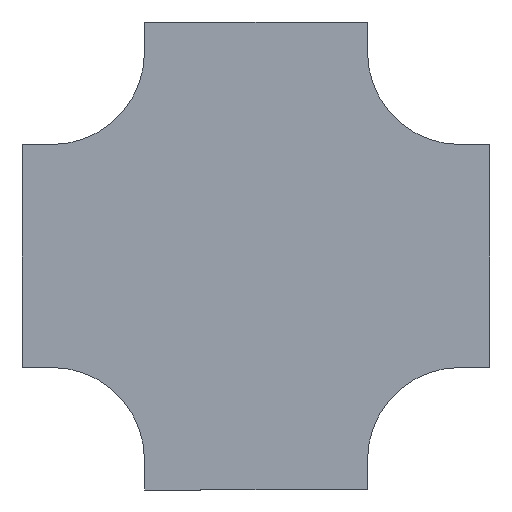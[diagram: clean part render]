
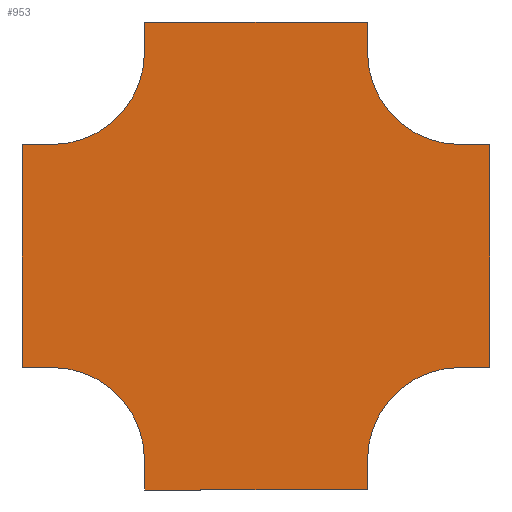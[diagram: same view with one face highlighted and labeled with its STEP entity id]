
A CAD part, front view. The second image highlights one B-rep face of the part: STEP entity #953.
In plain terms, the highlighted planar face has unit normal (0, -1, 0).
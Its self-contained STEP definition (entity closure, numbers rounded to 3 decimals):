
#3 = EDGE_CURVE ( 'NONE', #775, #1076, #1643, .T. ) ;
#24 = ORIENTED_EDGE ( 'NONE', *, *, #1774, .F. ) ;
#31 = ORIENTED_EDGE ( 'NONE', *, *, #2388, .F. ) ;
#43 = ORIENTED_EDGE ( 'NONE', *, *, #1344, .F. ) ;
#53 = LINE ( 'NONE', #3133, #2043 ) ;
#63 = VERTEX_POINT ( 'NONE', #1169 ) ;
#71 = AXIS2_PLACEMENT_3D ( 'NONE', #663, #2652, #2428 ) ;
#82 = CARTESIAN_POINT ( 'NONE',  ( -125., 0., 40. ) ) ;
#101 = EDGE_CURVE ( 'NONE', #2596, #728, #2910, .T. ) ;
#109 = EDGE_CURVE ( 'NONE', #1076, #1753, #2958, .T. ) ;
#113 = CARTESIAN_POINT ( 'NONE',  ( 0., 0., 0. ) ) ;
#146 = CARTESIAN_POINT ( 'NONE',  ( -125., 0., 40. ) ) ;
#169 = LINE ( 'NONE', #186, #2728 ) ;
#171 = AXIS2_PLACEMENT_3D ( 'NONE', #790, #1804, #1739 ) ;
#175 = VECTOR ( 'NONE', #1879, 1000. ) ;
#183 = CARTESIAN_POINT ( 'NONE',  ( -425., 0., -550. ) ) ;
#185 = ORIENTED_EDGE ( 'NONE', *, *, #679, .F. ) ;
#186 = CARTESIAN_POINT ( 'NONE',  ( -425., 0., 40. ) ) ;
#188 = LINE ( 'NONE', #1203, #1565 ) ;
#197 = ORIENTED_EDGE ( 'NONE', *, *, #2530, .F. ) ;
#203 = EDGE_LOOP ( 'NONE', ( #2859, #197, #3058, #851, #2104, #31, #941, #764, #43, #24, #2549, #2358, #2432, #1535, #185, #507 ) ) ;
#212 = CARTESIAN_POINT ( 'NONE',  ( -590., 0., -125. ) ) ;
#218 = CARTESIAN_POINT ( 'NONE',  ( 0., 0., -425. ) ) ;
#269 = VECTOR ( 'NONE', #2176, 1000. ) ;
#306 = DIRECTION ( 'NONE',  ( 0., -1., 0. ) ) ;
#403 = CARTESIAN_POINT ( 'NONE',  ( -590., 0., -425. ) ) ;
#412 = LINE ( 'NONE', #1433, #175 ) ;
#446 = VECTOR ( 'NONE', #626, 1000. ) ;
#507 = ORIENTED_EDGE ( 'NONE', *, *, #864, .F. ) ;
#516 = DIRECTION ( 'NONE',  ( 0., 0., -1. ) ) ;
#522 = CARTESIAN_POINT ( 'NONE',  ( -125., 0., 0. ) ) ;
#530 = VERTEX_POINT ( 'NONE', #1279 ) ;
#577 = DIRECTION ( 'NONE',  ( -1., 0., 0. ) ) ;
#626 = DIRECTION ( 'NONE',  ( 1., 0., 0. ) ) ;
#663 = CARTESIAN_POINT ( 'NONE',  ( 0., 0., -550. ) ) ;
#679 = EDGE_CURVE ( 'NONE', #1853, #2275, #805, .T. ) ;
#681 = CARTESIAN_POINT ( 'NONE',  ( -425., 0., -590. ) ) ;
#726 = DIRECTION ( 'NONE',  ( -1., 0., 0. ) ) ;
#728 = VERTEX_POINT ( 'NONE', #82 ) ;
#764 = ORIENTED_EDGE ( 'NONE', *, *, #3019, .F. ) ;
#775 = VERTEX_POINT ( 'NONE', #1695 ) ;
#790 = CARTESIAN_POINT ( 'NONE',  ( -550., 0., -550. ) ) ;
#805 = CIRCLE ( 'NONE', #1336, 125. ) ;
#851 = ORIENTED_EDGE ( 'NONE', *, *, #3, .F. ) ;
#864 = EDGE_CURVE ( 'NONE', #728, #1853, #2426, .T. ) ;
#918 = DIRECTION ( 'NONE',  ( 0., 0., 1. ) ) ;
#924 = VECTOR ( 'NONE', #1157, 1000. ) ;
#941 = ORIENTED_EDGE ( 'NONE', *, *, #2770, .F. ) ;
#953 = ADVANCED_FACE ( 'NONE', ( #1242 ), #3298, .T. ) ;
#963 = CARTESIAN_POINT ( 'NONE',  ( 0., 0., -125. ) ) ;
#973 = DIRECTION ( 'NONE',  ( 0., 0., -1. ) ) ;
#1018 = LINE ( 'NONE', #963, #2147 ) ;
#1076 = VERTEX_POINT ( 'NONE', #1292 ) ;
#1126 = VERTEX_POINT ( 'NONE', #403 ) ;
#1142 = CARTESIAN_POINT ( 'NONE',  ( -425., 0., 40. ) ) ;
#1157 = DIRECTION ( 'NONE',  ( 1., 0., 0. ) ) ;
#1169 = CARTESIAN_POINT ( 'NONE',  ( 0., 0., -425. ) ) ;
#1203 = CARTESIAN_POINT ( 'NONE',  ( -425., 0., -590. ) ) ;
#1242 = FACE_OUTER_BOUND ( 'NONE', #203, .T. ) ;
#1279 = CARTESIAN_POINT ( 'NONE',  ( -125., 0., -550. ) ) ;
#1292 = CARTESIAN_POINT ( 'NONE',  ( -550., 0., -125. ) ) ;
#1305 = AXIS2_PLACEMENT_3D ( 'NONE', #2975, #2504, #2757 ) ;
#1336 = AXIS2_PLACEMENT_3D ( 'NONE', #113, #306, #2127 ) ;
#1344 = EDGE_CURVE ( 'NONE', #2811, #1686, #188, .T. ) ;
#1404 = VECTOR ( 'NONE', #2517, 1000. ) ;
#1433 = CARTESIAN_POINT ( 'NONE',  ( -125., 0., -590. ) ) ;
#1528 = CARTESIAN_POINT ( 'NONE',  ( 0., 0., 0. ) ) ;
#1535 = ORIENTED_EDGE ( 'NONE', *, *, #1834, .F. ) ;
#1565 = VECTOR ( 'NONE', #726, 1000. ) ;
#1613 = CIRCLE ( 'NONE', #71, 125. ) ;
#1643 = LINE ( 'NONE', #2161, #446 ) ;
#1686 = VERTEX_POINT ( 'NONE', #681 ) ;
#1695 = CARTESIAN_POINT ( 'NONE',  ( -590., 0., -125. ) ) ;
#1739 = DIRECTION ( 'NONE',  ( 0., 0., -1. ) ) ;
#1753 = VERTEX_POINT ( 'NONE', #2906 ) ;
#1774 = EDGE_CURVE ( 'NONE', #530, #2811, #412, .T. ) ;
#1801 = CARTESIAN_POINT ( 'NONE',  ( -550., 0., -425. ) ) ;
#1804 = DIRECTION ( 'NONE',  ( 0., -1., 0. ) ) ;
#1834 = EDGE_CURVE ( 'NONE', #2275, #2142, #1018, .T. ) ;
#1847 = CARTESIAN_POINT ( 'NONE',  ( 40., 0., -425. ) ) ;
#1849 = CARTESIAN_POINT ( 'NONE',  ( 40., 0., -125. ) ) ;
#1853 = VERTEX_POINT ( 'NONE', #522 ) ;
#1865 = EDGE_CURVE ( 'NONE', #2823, #63, #2022, .T. ) ;
#1879 = DIRECTION ( 'NONE',  ( 0., 0., -1. ) ) ;
#1987 = VERTEX_POINT ( 'NONE', #1801 ) ;
#2014 = DIRECTION ( 'NONE',  ( 0., -1., 0. ) ) ;
#2022 = LINE ( 'NONE', #218, #1404 ) ;
#2043 = VECTOR ( 'NONE', #577, 1000. ) ;
#2104 = ORIENTED_EDGE ( 'NONE', *, *, #2219, .F. ) ;
#2127 = DIRECTION ( 'NONE',  ( 0., 0., -1. ) ) ;
#2133 = EDGE_CURVE ( 'NONE', #63, #530, #1613, .T. ) ;
#2142 = VERTEX_POINT ( 'NONE', #2195 ) ;
#2147 = VECTOR ( 'NONE', #3037, 1000. ) ;
#2154 = VECTOR ( 'NONE', #3224, 1000. ) ;
#2161 = CARTESIAN_POINT ( 'NONE',  ( -550., 0., -125. ) ) ;
#2176 = DIRECTION ( 'NONE',  ( 0., 0., -1. ) ) ;
#2195 = CARTESIAN_POINT ( 'NONE',  ( 40., 0., -125. ) ) ;
#2204 = LINE ( 'NONE', #3239, #2154 ) ;
#2213 = DIRECTION ( 'NONE',  ( 0., 0., 1. ) ) ;
#2219 = EDGE_CURVE ( 'NONE', #1126, #775, #2230, .T. ) ;
#2230 = LINE ( 'NONE', #212, #2945 ) ;
#2275 = VERTEX_POINT ( 'NONE', #2998 ) ;
#2358 = ORIENTED_EDGE ( 'NONE', *, *, #1865, .F. ) ;
#2388 = EDGE_CURVE ( 'NONE', #1987, #1126, #53, .T. ) ;
#2405 = VECTOR ( 'NONE', #516, 1000. ) ;
#2408 = CIRCLE ( 'NONE', #171, 125. ) ;
#2422 = EDGE_CURVE ( 'NONE', #2142, #2823, #2612, .T. ) ;
#2426 = LINE ( 'NONE', #146, #269 ) ;
#2428 = DIRECTION ( 'NONE',  ( 0., 0., 1. ) ) ;
#2432 = ORIENTED_EDGE ( 'NONE', *, *, #2422, .F. ) ;
#2504 = DIRECTION ( 'NONE',  ( 0., -1., 0. ) ) ;
#2517 = DIRECTION ( 'NONE',  ( -1., 0., 0. ) ) ;
#2530 = EDGE_CURVE ( 'NONE', #1753, #2596, #169, .T. ) ;
#2549 = ORIENTED_EDGE ( 'NONE', *, *, #2133, .F. ) ;
#2596 = VERTEX_POINT ( 'NONE', #2717 ) ;
#2612 = LINE ( 'NONE', #1849, #2405 ) ;
#2652 = DIRECTION ( 'NONE',  ( 0., -1., 0. ) ) ;
#2717 = CARTESIAN_POINT ( 'NONE',  ( -425., 0., 40. ) ) ;
#2728 = VECTOR ( 'NONE', #918, 1000. ) ;
#2757 = DIRECTION ( 'NONE',  ( 0., 0., 1. ) ) ;
#2770 = EDGE_CURVE ( 'NONE', #2885, #1987, #2408, .T. ) ;
#2772 = AXIS2_PLACEMENT_3D ( 'NONE', #1528, #2014, #973 ) ;
#2811 = VERTEX_POINT ( 'NONE', #2842 ) ;
#2823 = VERTEX_POINT ( 'NONE', #1847 ) ;
#2842 = CARTESIAN_POINT ( 'NONE',  ( -125., 0., -590. ) ) ;
#2859 = ORIENTED_EDGE ( 'NONE', *, *, #101, .F. ) ;
#2885 = VERTEX_POINT ( 'NONE', #183 ) ;
#2906 = CARTESIAN_POINT ( 'NONE',  ( -425., 0., 0. ) ) ;
#2910 = LINE ( 'NONE', #1142, #924 ) ;
#2945 = VECTOR ( 'NONE', #2213, 1000. ) ;
#2958 = CIRCLE ( 'NONE', #1305, 125. ) ;
#2975 = CARTESIAN_POINT ( 'NONE',  ( -550., 0., 0. ) ) ;
#2998 = CARTESIAN_POINT ( 'NONE',  ( 0., 0., -125. ) ) ;
#3019 = EDGE_CURVE ( 'NONE', #1686, #2885, #2204, .T. ) ;
#3037 = DIRECTION ( 'NONE',  ( 1., 0., 0. ) ) ;
#3058 = ORIENTED_EDGE ( 'NONE', *, *, #109, .F. ) ;
#3133 = CARTESIAN_POINT ( 'NONE',  ( -550., 0., -425. ) ) ;
#3224 = DIRECTION ( 'NONE',  ( 0., 0., 1. ) ) ;
#3239 = CARTESIAN_POINT ( 'NONE',  ( -425., 0., -590. ) ) ;
#3298 = PLANE ( 'NONE',  #2772 ) ;
